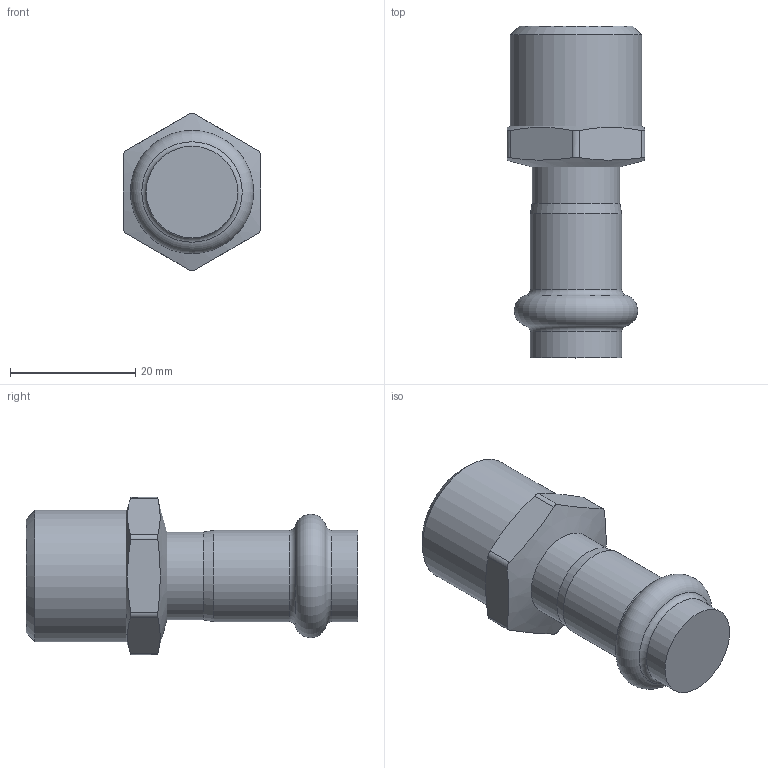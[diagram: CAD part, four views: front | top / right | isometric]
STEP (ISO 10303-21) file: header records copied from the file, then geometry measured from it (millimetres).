
FILE_DESCRIPTION(('STEP AP203'), '1');
FILE_NAME('VTi.901.I.001204', '', ('UNSPECIFIED'), ('UNSPECIFIED'), 'C3D Converter', 'C3D Toolkit', '');
FILE_SCHEMA(('CONFIG_CONTROL_DESIGN'));
Length unit declared in the file: millimetre
Bounding box: 22 x 53 x 25.09 mm (x, y, z)
Volume: 13550.9 mm3; surface area: 3806.7 mm2
Topology: 1 solids, 1 shells, 25 faces, 61 edges, 38 vertices
Faces by surface type: cylinder 10, plane 8, cone 4, torus 3
Full cylindrical faces by diameter (mm): 14 x1, 14.6 x2, 20.955 x1
Entity records: 1425 total; most frequent: CARTESIAN_POINT 883, ORIENTED_EDGE 100, DIRECTION 88, EDGE_CURVE 50, AXIS2_PLACEMENT_3D 38, VERTEX_POINT 38, EDGE_LOOP 36, B_SPLINE_CURVE_WITH_KNOTS 26
